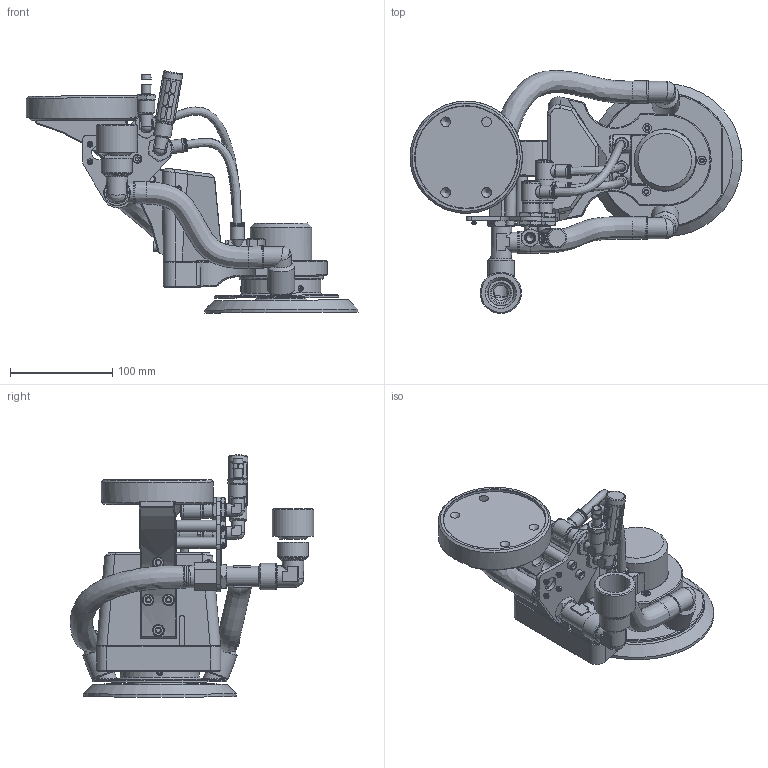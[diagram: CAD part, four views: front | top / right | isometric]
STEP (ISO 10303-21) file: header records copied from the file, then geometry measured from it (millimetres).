
FILE_DESCRIPTION(/* description */ (''),/* implementation_level */ '2;1');
FILE_NAME(/* name */ 'PRS-350Ex_150_Public.stp',/* time_stamp */ '2026-05-17T11:22:13+02:00',/* author */ ('karan'),/* organization */ (''),/* preprocessor_version */ 'ST-DEVELOPER v20',/* originating_system */ 'Autodesk Inventor 2024',/* authorisation */ '');
FILE_SCHEMA (('AUTOMOTIVE_DESIGN { 1 0 10303 214 3 1 1 }'));
Products named in the file (1): Schleifwerkzeug_PRS-350Ex_Упростить_
1
Bounding box: 325.21 x 238.26 x 237.25 mm (x, y, z)
Surface area: 331091.4 mm2
Topology: 25 solids, 114 shells, 1922 faces, 5652 edges, 3844 vertices
Faces by surface type: plane 747, cylinder 566, cone 326, bspline 229, torus 40, sphere 14
Full cylindrical faces by diameter (mm): 2.4 x3, 3.011 x12, 3.5 x1, 4 x1, 5 x1, 5.7 x7, 6 x3, 7.4 x1, 8 x1, 8.5 x5, 9 x5, 9.1 x1, 9.2 x3, 10 x5, 10.5 x3, 11 x2, 11.5 x3, 12 x3, 12.5 x4, 13 x10, 13.2 x5, 13.3 x2, 13.388 x2, 13.5 x7, 14 x4, 15 x8, 16.5 x2, 17 x6, 17.8 x1, 18 x3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
Entity records: 88810 total; most frequent: CARTESIAN_POINT 39066, ORIENTED_EDGE 10021, DIRECTION 9020, EDGE_CURVE 5624, VERTEX_POINT 3844, AXIS2_PLACEMENT_3D 3257, LINE 2506, VECTOR 2506
